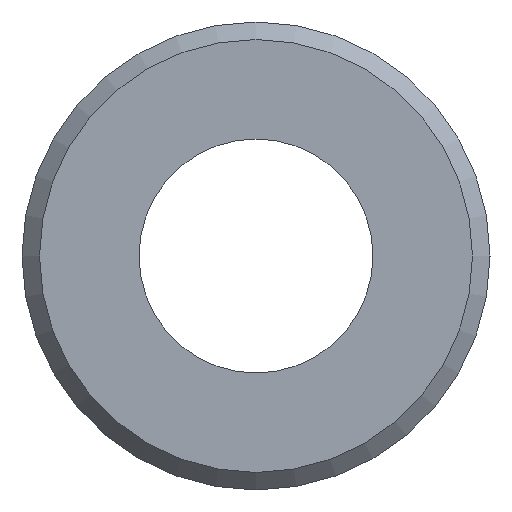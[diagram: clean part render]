
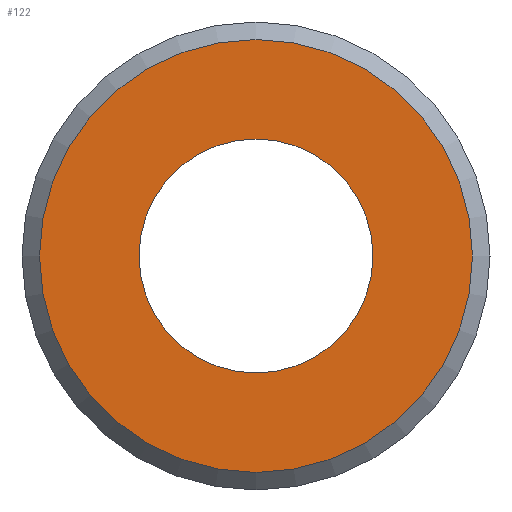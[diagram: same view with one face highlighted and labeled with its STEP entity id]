
A CAD part, left-side view. The second image highlights one B-rep face of the part: STEP entity #122.
In plain terms, the highlighted planar face has unit normal (-1, 0, 0).
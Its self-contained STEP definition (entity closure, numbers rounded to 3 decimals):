
#17=FACE_BOUND('',#41,.T.);
#20=PLANE('',#162);
#30=FACE_OUTER_BOUND('',#40,.T.);
#40=EDGE_LOOP('',(#110));
#41=EDGE_LOOP('',(#111));
#53=CIRCLE('',#148,2.);
#55=CIRCLE('',#151,3.7);
#62=VERTEX_POINT('',#208);
#65=VERTEX_POINT('',#215);
#72=EDGE_CURVE('',#62,#62,#53,.T.);
#75=EDGE_CURVE('',#65,#65,#55,.T.);
#110=ORIENTED_EDGE('',*,*,#75,.T.);
#111=ORIENTED_EDGE('',*,*,#72,.T.);
#122=ADVANCED_FACE('',(#30,#17),#20,.F.);
#148=AXIS2_PLACEMENT_3D('',#210,#170,#171);
#151=AXIS2_PLACEMENT_3D('',#217,#177,#178);
#162=AXIS2_PLACEMENT_3D('',#235,#202,#203);
#170=DIRECTION('center_axis',(1.,0.,0.));
#171=DIRECTION('ref_axis',(0.,0.,-1.));
#177=DIRECTION('center_axis',(-1.,0.,0.));
#178=DIRECTION('ref_axis',(0.,0.,1.));
#202=DIRECTION('center_axis',(1.,0.,0.));
#203=DIRECTION('ref_axis',(0.,0.,-1.));
#208=CARTESIAN_POINT('',(0.,0.,2.));
#210=CARTESIAN_POINT('Origin',(0.,0.,0.));
#215=CARTESIAN_POINT('',(0.,0.,3.7));
#217=CARTESIAN_POINT('Origin',(0.,0.,0.));
#235=CARTESIAN_POINT('Origin',(0.,3.7,0.));
